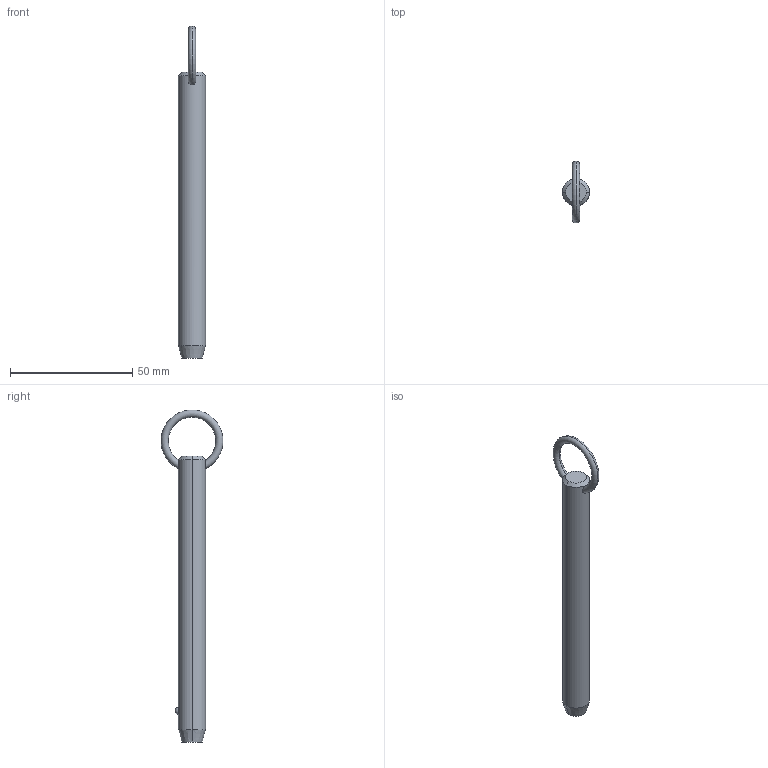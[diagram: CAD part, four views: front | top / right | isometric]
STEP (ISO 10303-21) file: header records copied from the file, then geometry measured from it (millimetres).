
FILE_DESCRIPTION (( 'STEP AP203' ), '1' );
FILE_NAME ('P1250.050-380.step', '2019-07-29T20:35:39', ( '' ), ( '' ), 'SwSTEP 2.0', 'SolidWorks 2017', '' );
FILE_SCHEMA (( 'CONFIG_CONTROL_DESIGN' ));
Length unit declared in the file: millimetre
Products named in the file (1): P1250.050-380
Bounding box: 11.1 x 25.32 x 136.05 mm (x, y, z)
Volume: 11614.4 mm3; surface area: 4736.1 mm2
Topology: 1 solids, 1 shells, 12 faces, 28 edges, 17 vertices
Faces by surface type: cone 4, torus 2, sphere 2, cylinder 2, plane 2
Entity records: 523 total; most frequent: CARTESIAN_POINT 190, DIRECTION 56, ORIENTED_EDGE 48, AXIS2_PLACEMENT_3D 25, EDGE_CURVE 24, VERTEX_POINT 15, EDGE_LOOP 15, CIRCLE 12
